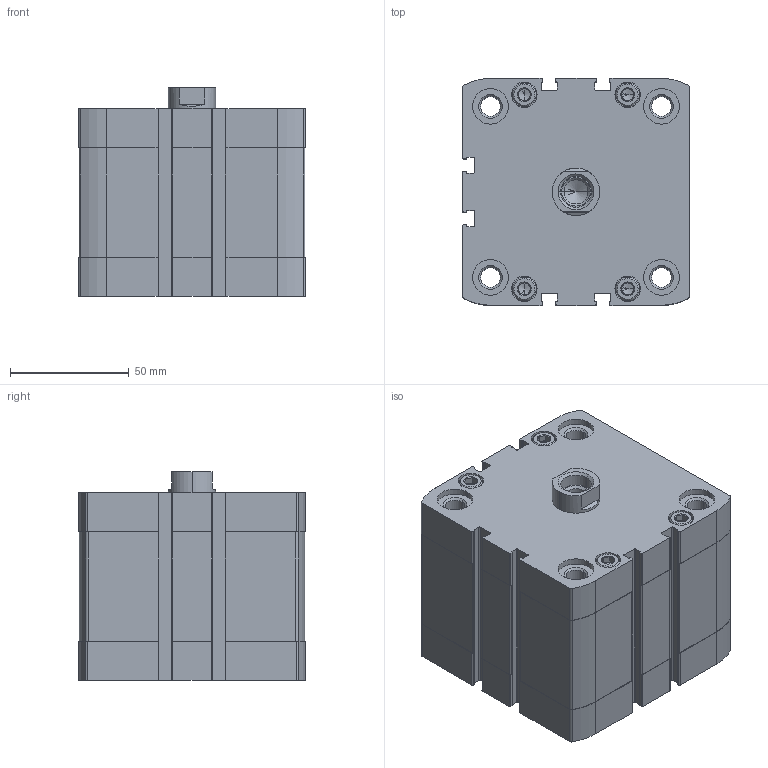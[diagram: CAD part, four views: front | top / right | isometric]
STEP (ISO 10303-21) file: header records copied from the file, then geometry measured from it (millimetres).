
FILE_DESCRIPTION (( 'STEP AP203' ), '1' );
FILE_NAME ('CCN80-25F.STEP', '2017-04-05T19:40:18', ( '' ), ( '' ), 'SwSTEP 2.0', 'SolidWorks 2016', '' );
FILE_SCHEMA (( 'CONFIG_CONTROL_DESIGN' ));
Length unit declared in the file: millimetre
Products named in the file (3): CCN-25---(Z); CCN-25_(KS); CCN80-25F
Assembly tree (2 placements, depth 2):
  CCN80-25F
    CCN-25---(Z)
    CCN-25_(KS)
Bounding box: 95.5 x 95.5 x 87.9 mm (x, y, z)
Volume: 555429.5 mm3; surface area: 106546.4 mm2
Topology: 2 solids, 2 shells, 487 faces, 1230 edges, 777 vertices
Faces by surface type: plane 227, cylinder 186, cone 74
Entity records: 15261 total; most frequent: CARTESIAN_POINT 3031, DIRECTION 2612, ORIENTED_EDGE 2424, EDGE_CURVE 1212, AXIS2_PLACEMENT_3D 974, VERTEX_POINT 777, VECTOR 664, LINE 664
